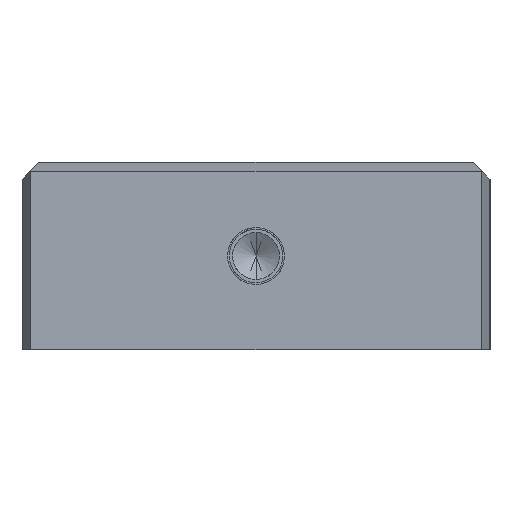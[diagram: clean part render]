
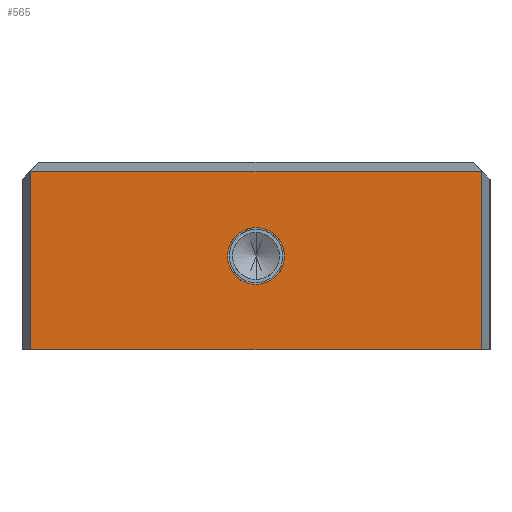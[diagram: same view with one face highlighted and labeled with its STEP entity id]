
A CAD part, front view. The second image highlights one B-rep face of the part: STEP entity #565.
In plain terms, the highlighted planar face has unit normal (0, -1, 0).
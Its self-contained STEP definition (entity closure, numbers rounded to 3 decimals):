
#457=CARTESIAN_POINT('Vertex',(0.,0.,-36.5)) ;
#461=CARTESIAN_POINT('Control Point',(8.5,0.,-28.)) ;
#462=CARTESIAN_POINT('Control Point',(8.5,0.,-30.67)) ;
#463=CARTESIAN_POINT('Control Point',(7.454,0.,-33.343)) ;
#464=CARTESIAN_POINT('Control Point',(5.343,0.,-35.454)) ;
#465=CARTESIAN_POINT('Control Point',(2.67,0.,-36.5)) ;
#466=CARTESIAN_POINT('Control Point',(0.,0.,-36.5)) ;
#467=CARTESIAN_POINT('Vertex',(8.5,0.,-28.)) ;
#470=CARTESIAN_POINT('Axis2P3D Location',(0.,0.,-28.)) ;
#474=CARTESIAN_POINT('Vertex',(0.,0.,-19.5)) ;
#496=CARTESIAN_POINT('Axis2P3D Location',(0.,0.,-28.)) ;
#500=CARTESIAN_POINT('Vertex',(-8.5,0.,-28.)) ;
#504=CARTESIAN_POINT('Control Point',(0.,0.,-36.5)) ;
#505=CARTESIAN_POINT('Control Point',(-2.67,0.,-36.5)) ;
#506=CARTESIAN_POINT('Control Point',(-5.343,0.,-35.454)) ;
#507=CARTESIAN_POINT('Control Point',(-7.454,0.,-33.343)) ;
#508=CARTESIAN_POINT('Control Point',(-8.5,0.,-30.67)) ;
#509=CARTESIAN_POINT('Control Point',(-8.5,0.,-28.)) ;
#520=CARTESIAN_POINT('Axis2P3D Location',(-67.321,0.,-56.)) ;
#525=CARTESIAN_POINT('Line Origine',(67.321,0.,-29.34)) ;
#529=CARTESIAN_POINT('Vertex',(67.321,0.,-56.)) ;
#531=CARTESIAN_POINT('Vertex',(67.321,0.,-2.679)) ;
#534=CARTESIAN_POINT('Line Origine',(0.,0.,-2.679)) ;
#538=CARTESIAN_POINT('Vertex',(-67.321,0.,-2.679)) ;
#541=CARTESIAN_POINT('Line Origine',(-67.321,0.,-29.34)) ;
#545=CARTESIAN_POINT('Vertex',(-67.321,0.,-56.)) ;
#548=CARTESIAN_POINT('Line Origine',(0.,0.,-56.)) ;
#471=DIRECTION('Axis2P3D Direction',(0.,-1.,0.)) ;
#497=DIRECTION('Axis2P3D Direction',(0.,-1.,0.)) ;
#521=DIRECTION('Axis2P3D Direction',(0.,-1.,0.)) ;
#522=DIRECTION('Axis2P3D XDirection',(0.,0.,-1.)) ;
#526=DIRECTION('Vector Direction',(0.,0.,1.)) ;
#535=DIRECTION('Vector Direction',(-1.,0.,0.)) ;
#542=DIRECTION('Vector Direction',(0.,0.,1.)) ;
#549=DIRECTION('Vector Direction',(1.,0.,0.)) ;
#472=AXIS2_PLACEMENT_3D('Circle Axis2P3D',#470,#471,$) ;
#498=AXIS2_PLACEMENT_3D('Circle Axis2P3D',#496,#497,$) ;
#523=AXIS2_PLACEMENT_3D('Plane Axis2P3D',#520,#521,#522) ;
#554=ORIENTED_EDGE('',*,*,#533,.T.) ;
#555=ORIENTED_EDGE('',*,*,#540,.T.) ;
#556=ORIENTED_EDGE('',*,*,#547,.F.) ;
#557=ORIENTED_EDGE('',*,*,#552,.T.) ;
#560=ORIENTED_EDGE('',*,*,#469,.T.) ;
#561=ORIENTED_EDGE('',*,*,#510,.T.) ;
#562=ORIENTED_EDGE('',*,*,#502,.T.) ;
#563=ORIENTED_EDGE('',*,*,#476,.T.) ;
#564=FACE_BOUND('',#559,.T.) ;
#527=VECTOR('Line Direction',#526,1.) ;
#536=VECTOR('Line Direction',#535,1.) ;
#543=VECTOR('Line Direction',#542,1.) ;
#550=VECTOR('Line Direction',#549,1.) ;
#565=ADVANCED_FACE('A927-140X400X56',(#558,#564),#524,.T.) ;
#460=B_SPLINE_CURVE_WITH_KNOTS('',5,(#461,#462,#463,#464,#465,#466),.UNSPECIFIED.,.F.,.U.,(6,6),(-6.676,6.676),.UNSPECIFIED.) ;
#503=B_SPLINE_CURVE_WITH_KNOTS('',5,(#504,#505,#506,#507,#508,#509),.UNSPECIFIED.,.F.,.U.,(6,6),(-6.676,6.676),.UNSPECIFIED.) ;
#473=CIRCLE('generated circle',#472,8.5) ;
#499=CIRCLE('generated circle',#498,8.5) ;
#469=EDGE_CURVE('',#468,#458,#460,.T.) ;
#476=EDGE_CURVE('',#475,#468,#473,.F.) ;
#502=EDGE_CURVE('',#501,#475,#499,.F.) ;
#510=EDGE_CURVE('',#458,#501,#503,.T.) ;
#533=EDGE_CURVE('',#530,#532,#528,.T.) ;
#540=EDGE_CURVE('',#532,#539,#537,.T.) ;
#547=EDGE_CURVE('',#546,#539,#544,.T.) ;
#552=EDGE_CURVE('',#546,#530,#551,.T.) ;
#553=EDGE_LOOP('',(#554,#555,#556,#557)) ;
#559=EDGE_LOOP('',(#560,#561,#562,#563)) ;
#558=FACE_OUTER_BOUND('',#553,.T.) ;
#528=LINE('Line',#525,#527) ;
#537=LINE('Line',#534,#536) ;
#544=LINE('Line',#541,#543) ;
#551=LINE('Line',#548,#550) ;
#524=PLANE('Plane',#523) ;
#458=VERTEX_POINT('',#457) ;
#468=VERTEX_POINT('',#467) ;
#475=VERTEX_POINT('',#474) ;
#501=VERTEX_POINT('',#500) ;
#530=VERTEX_POINT('',#529) ;
#532=VERTEX_POINT('',#531) ;
#539=VERTEX_POINT('',#538) ;
#546=VERTEX_POINT('',#545) ;
